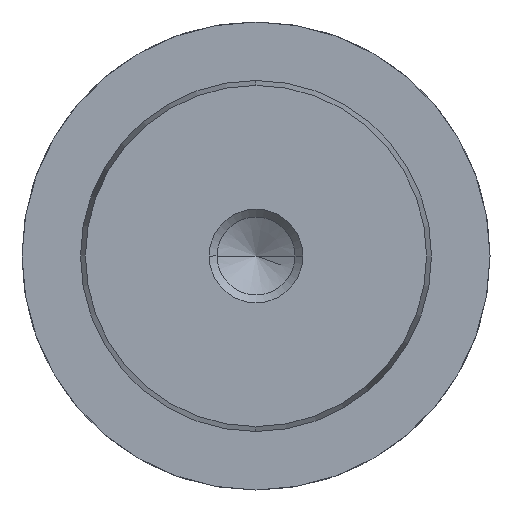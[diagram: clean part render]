
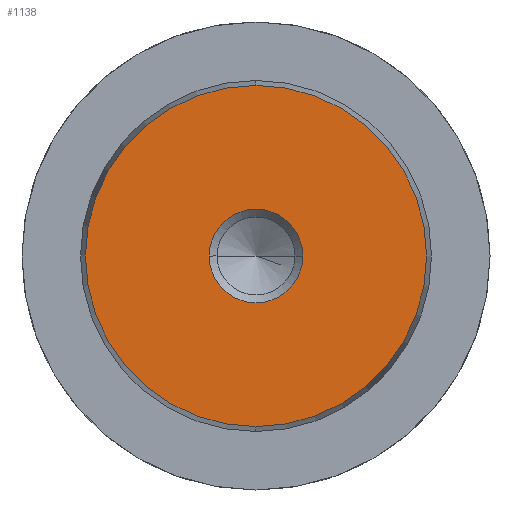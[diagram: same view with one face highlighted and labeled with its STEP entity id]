
A CAD part, left-side view. The second image highlights one B-rep face of the part: STEP entity #1138.
In plain terms, the highlighted planar face has unit normal (-1, 0, 0).
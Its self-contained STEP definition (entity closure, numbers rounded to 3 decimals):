
#1052=CARTESIAN_POINT('Vertex',(0.,0.,-14.578)) ;
#1055=CARTESIAN_POINT('Axis2P3D Location',(0.,0.,0.)) ;
#1059=CARTESIAN_POINT('Vertex',(0.,14.578,0.)) ;
#1062=CARTESIAN_POINT('Axis2P3D Location',(0.,0.,0.)) ;
#1066=CARTESIAN_POINT('Vertex',(0.,0.,14.578)) ;
#1088=CARTESIAN_POINT('Axis2P3D Location',(0.,0.,0.)) ;
#1092=CARTESIAN_POINT('Vertex',(0.,-14.578,0.)) ;
#1095=CARTESIAN_POINT('Axis2P3D Location',(0.,0.,0.)) ;
#1109=CARTESIAN_POINT('Axis2P3D Location',(0.,0.,0.)) ;
#1120=CARTESIAN_POINT('Axis2P3D Location',(0.,0.,0.)) ;
#1124=CARTESIAN_POINT('Vertex',(0.,4.,0.)) ;
#1126=CARTESIAN_POINT('Vertex',(0.,-4.,0.)) ;
#1129=CARTESIAN_POINT('Axis2P3D Location',(0.,0.,0.)) ;
#1056=DIRECTION('Axis2P3D Direction',(1.,-0.,0.)) ;
#1063=DIRECTION('Axis2P3D Direction',(1.,-0.,0.)) ;
#1089=DIRECTION('Axis2P3D Direction',(1.,0.,-0.)) ;
#1096=DIRECTION('Axis2P3D Direction',(1.,0.,-0.)) ;
#1110=DIRECTION('Axis2P3D Direction',(1.,0.,-0.)) ;
#1111=DIRECTION('Axis2P3D XDirection',(-0.,0.,-1.)) ;
#1121=DIRECTION('Axis2P3D Direction',(1.,0.,-0.)) ;
#1130=DIRECTION('Axis2P3D Direction',(1.,0.,-0.)) ;
#1057=AXIS2_PLACEMENT_3D('Circle Axis2P3D',#1055,#1056,$) ;
#1064=AXIS2_PLACEMENT_3D('Circle Axis2P3D',#1062,#1063,$) ;
#1090=AXIS2_PLACEMENT_3D('Circle Axis2P3D',#1088,#1089,$) ;
#1097=AXIS2_PLACEMENT_3D('Circle Axis2P3D',#1095,#1096,$) ;
#1112=AXIS2_PLACEMENT_3D('Plane Axis2P3D',#1109,#1110,#1111) ;
#1122=AXIS2_PLACEMENT_3D('Circle Axis2P3D',#1120,#1121,$) ;
#1131=AXIS2_PLACEMENT_3D('Circle Axis2P3D',#1129,#1130,$) ;
#1115=ORIENTED_EDGE('',*,*,#1061,.F.) ;
#1116=ORIENTED_EDGE('',*,*,#1099,.F.) ;
#1117=ORIENTED_EDGE('',*,*,#1094,.F.) ;
#1118=ORIENTED_EDGE('',*,*,#1068,.F.) ;
#1135=ORIENTED_EDGE('',*,*,#1128,.T.) ;
#1136=ORIENTED_EDGE('',*,*,#1133,.T.) ;
#1137=FACE_BOUND('',#1134,.T.) ;
#1138=ADVANCED_FACE('719-30x250',(#1119,#1137),#1113,.F.) ;
#1058=CIRCLE('generated circle',#1057,14.578) ;
#1065=CIRCLE('generated circle',#1064,14.578) ;
#1091=CIRCLE('generated circle',#1090,14.578) ;
#1098=CIRCLE('generated circle',#1097,14.578) ;
#1123=CIRCLE('generated circle',#1122,4.) ;
#1132=CIRCLE('generated circle',#1131,4.) ;
#1061=EDGE_CURVE('',#1053,#1060,#1058,.T.) ;
#1068=EDGE_CURVE('',#1060,#1067,#1065,.T.) ;
#1094=EDGE_CURVE('',#1067,#1093,#1091,.T.) ;
#1099=EDGE_CURVE('',#1093,#1053,#1098,.T.) ;
#1128=EDGE_CURVE('',#1125,#1127,#1123,.T.) ;
#1133=EDGE_CURVE('',#1127,#1125,#1132,.T.) ;
#1114=EDGE_LOOP('',(#1115,#1116,#1117,#1118)) ;
#1134=EDGE_LOOP('',(#1135,#1136)) ;
#1119=FACE_OUTER_BOUND('',#1114,.T.) ;
#1113=PLANE('Plane',#1112) ;
#1053=VERTEX_POINT('',#1052) ;
#1060=VERTEX_POINT('',#1059) ;
#1067=VERTEX_POINT('',#1066) ;
#1093=VERTEX_POINT('',#1092) ;
#1125=VERTEX_POINT('',#1124) ;
#1127=VERTEX_POINT('',#1126) ;
